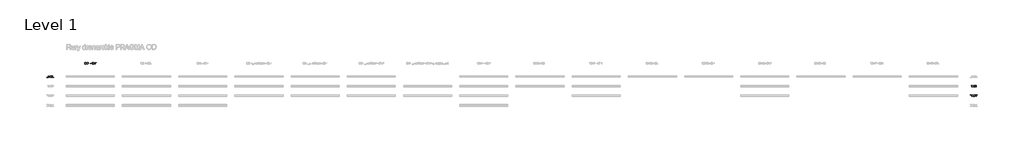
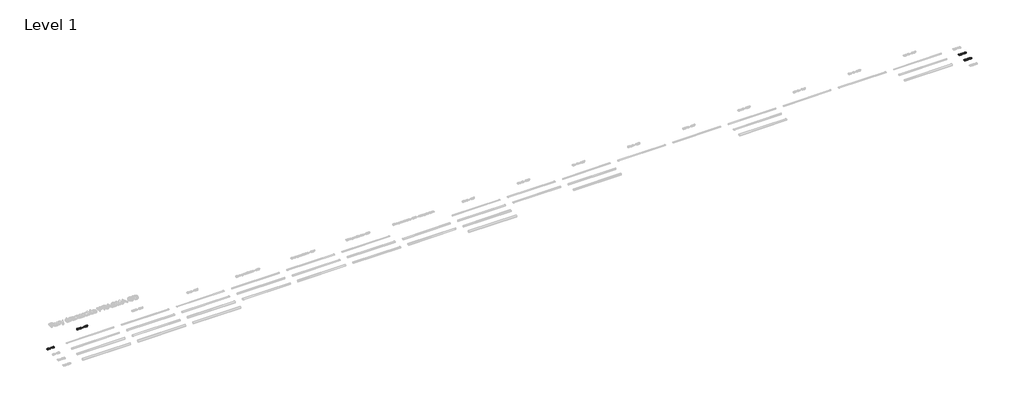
# One storey, part 3 of 9: 4 proxies.
"""IFC4 building model written with IfcOpenShell, lengths in millimetres."""

import ifcopenshell
import ifcopenshell.guid

model = None  # the IFC model being written
_history = None  # IfcOwnerHistory: only IFC2X3 demands one
_inside = {}  # id of a spatial element -> (the spatial element, [elements in it])
_under = {}  # id of a project, library or spatial element -> (it, [spatial elements below it])
_declared = {}  # id of a project -> (the project, [libraries it declares])
_typed = {}  # id of a type object -> (the type object, [elements of that type])
_made_of = {}  # id of a material, layer set ... -> (it, [elements and type objects made of it])


def new_model(schema):
    """Start an empty IFC model of exactly this schema.

    Asked for "IFC4X3", IfcOpenShell would pick the latest addendum, in which some entities
    have other attributes; the version numbers below select the first issue.
    IFC2X3 requires an IfcOwnerHistory on every rooted entity: one is made here for all.
    """
    global model, _history
    if schema == "IFC4X3":
        model = ifcopenshell.file(schema_version=(4, 3, 0, 0))
    else:
        model = ifcopenshell.file(schema=schema)
    _inside.clear()
    _under.clear()
    _declared.clear()
    _typed.clear()
    _made_of.clear()
    _history = None
    if model.schema == "IFC2X3":
        org = make("IfcOrganization", Name="unknown")
        user = make(
            "IfcPersonAndOrganization",
            ThePerson=make("IfcPerson", FamilyName="unknown"),
            TheOrganization=org,
        )
        app = make(
            "IfcApplication",
            ApplicationDeveloper=org,
            Version="unknown",
            ApplicationFullName="unknown",
            ApplicationIdentifier="unknown",
        )
        _history = make(
            "IfcOwnerHistory",
            OwningUser=user,
            OwningApplication=app,
            ChangeAction="ADDED",
            CreationDate=0,
        )
    return model


def make(cls, **values):
    """One entity of the class cls with the attributes given. An attribute that is None is left unset."""
    return model.create_entity(
        cls, **{name: value for name, value in values.items() if value is not None}
    )


def rooted(cls, **values):
    """An entity with a GlobalId (a new one), such as an element, a storey or a relation."""
    return make(cls, GlobalId=ifcopenshell.guid.new(), OwnerHistory=_history, **values)


def si_unit(unit_type, name, prefix=None):
    """IfcSIUnit, for example si_unit("LENGTHUNIT", "METRE", prefix="MILLI")."""
    return make("IfcSIUnit", UnitType=unit_type, Prefix=prefix, Name=name)


def assignment(units):
    """IfcUnitAssignment: the units of a project."""
    return None if units is None else make("IfcUnitAssignment", Units=units)


def point(xyz):
    """IfcCartesianPoint."""
    return None if xyz is None else make("IfcCartesianPoint", Coordinates=xyz)


def direction(xyz):
    """IfcDirection."""
    return None if xyz is None else make("IfcDirection", DirectionRatios=xyz)


def frame(location, z_axis=None, x_axis=None):
    """IfcAxis2Placement3D, a coordinate frame: its origin and axes. An axis left out is left unset."""
    return make(
        "IfcAxis2Placement3D",
        Location=point(location),
        Axis=direction(z_axis),
        RefDirection=direction(x_axis),
    )


def origin():
    """The frame at (0, 0, 0) with its axes left unset."""
    return frame((0.0, 0.0, 0.0))


def origin_with_axes():
    """The frame at (0, 0, 0) with the z axis (0, 0, 1) and the x axis (1, 0, 0) written out."""
    return frame((0.0, 0.0, 0.0), z_axis=(0.0, 0.0, 1.0), x_axis=(1.0, 0.0, 0.0))


def place(relative_to, where):
    """IfcLocalPlacement: puts the frame where relative to a parent placement (None: the world)."""
    return make(
        "IfcLocalPlacement", PlacementRelTo=relative_to, RelativePlacement=where
    )


def context(
    kind, dimensions, precision=None, world=None, true_north=None, identifier=None
):
    """IfcGeometricRepresentationContext, for example the 3D "Model" context."""
    return make(
        "IfcGeometricRepresentationContext",
        ContextIdentifier=identifier,
        ContextType=kind,
        CoordinateSpaceDimension=dimensions,
        Precision=precision,
        WorldCoordinateSystem=world,
        TrueNorth=true_north,
    )


def project(units=None, contexts=None):
    """IfcProject with its units and contexts."""
    return rooted(
        "IfcProject",
        Name="project",
        RepresentationContexts=contexts,
        UnitsInContext=assignment(units),
    )


def spatial(cls, under=None, at=None, **own):
    """A site, building, storey or space (cls), placed at a placement, below another one or the project."""
    s = rooted(cls, ObjectPlacement=at, **own)
    if under is not None:
        _under.setdefault(under.id(), (under, []))[1].append(s)
    return s


def polyline(points):
    """IfcPolyline through the points."""
    return make("IfcPolyline", Points=[point(p) for p in points])


def outline(outer, holes=None, kind="AREA"):
    """IfcArbitraryClosedProfileDef: a profile drawn as a closed curve; with holes, ...WithVoids."""
    if holes is None:
        return make("IfcArbitraryClosedProfileDef", ProfileType=kind, OuterCurve=outer)
    return make(
        "IfcArbitraryProfileDefWithVoids",
        ProfileType=kind,
        OuterCurve=outer,
        InnerCurves=holes,
    )


def extrude(swept, where, along, depth):
    """IfcExtrudedAreaSolid: the profile swept, set in the frame where, extruded along a direction by depth."""
    return make(
        "IfcExtrudedAreaSolid",
        SweptArea=swept,
        Position=where,
        ExtrudedDirection=direction(along),
        Depth=depth,
    )


def shape(context_of_items, identifier, shape_type, items):
    """IfcShapeRepresentation: the items that make up one representation, for example the "Body"."""
    return make(
        "IfcShapeRepresentation",
        ContextOfItems=context_of_items,
        RepresentationIdentifier=identifier,
        RepresentationType=shape_type,
        Items=items,
    )


def made_of(thing, what):
    """Note that an element or type object is made of a material, layer set ...; save() writes the relation."""
    if what is not None:
        _made_of.setdefault(what.id(), (what, []))[1].append(thing)
    return thing


def element(
    cls,
    number,
    at=None,
    inside=None,
    cuts=None,
    type_object=None,
    material=None,
    context=None,
    identifier="Body",
    shape_type=None,
    held_by="IfcProductDefinitionShape",
    body=None,
    shapes=None,
    **own,
):
    """One element of the class cls, such as IfcWall. Its Tag is "e" and its number.

    at: its placement. inside: the storey or other place that contains it. cuts: it is an
    opening in that element (IfcRelVoidsElement). A single representation is given by context,
    identifier, shape_type and body (its items); several are given by shapes. held_by: the class
    of the entity that holds the representations. save() writes the other relations.
    """
    e = rooted(cls, Tag="e%d" % number, ObjectPlacement=at, **own)
    if body is not None:
        shapes = [shape(context, identifier, shape_type, body)]
    if shapes is not None:
        e.Representation = make(held_by, Representations=shapes)
    if inside is not None:
        _inside.setdefault(inside.id(), (inside, []))[1].append(e)
    if cuts is not None:
        rooted(
            "IfcRelVoidsElement", RelatingBuildingElement=cuts, RelatedOpeningElement=e
        )
    if type_object is not None:
        _typed.setdefault(type_object.id(), (type_object, []))[1].append(e)
    return made_of(e, material)


def aggregate(whole, parts):
    """IfcRelAggregates: a whole, such as a stair, and the parts it consists of."""
    return rooted("IfcRelAggregates", RelatingObject=whole, RelatedObjects=parts)


def save(model, path):
    """Write the relations noted so far, then the file.

    IfcRelAggregates (storeys below a building ...), IfcRelContainedInSpatialStructure (elements
    in a storey), IfcRelDefinesByType, IfcRelAssociatesMaterial and IfcRelDeclares: one each for
    every whole, place, type object, material and project.
    """
    for whole, parts in _under.values():
        aggregate(whole, parts)
    for where, things in _inside.values():
        rooted(
            "IfcRelContainedInSpatialStructure",
            RelatedElements=things,
            RelatingStructure=where,
        )
    for kind, things in _typed.values():
        rooted("IfcRelDefinesByType", RelatedObjects=things, RelatingType=kind)
    for what, things in _made_of.values():
        rooted("IfcRelAssociatesMaterial", RelatedObjects=things, RelatingMaterial=what)
    for by, libraries in _declared.values():
        rooted("IfcRelDeclares", RelatingContext=by, RelatedDefinitions=libraries)
    model.write(path)


model = new_model("IFC4")

# Units and contexts
model_context = context("Model", 3, world=origin())
ifc_project = project(units=[si_unit("LENGTHUNIT", "METRE", prefix="MILLI")], contexts=[model_context])

# Site, building, storey
site = spatial("IfcSite", under=ifc_project)
building = spatial("IfcBuilding", under=site)
storey = spatial("IfcBuildingStorey", under=building, Name="Level 1", Elevation=0.0)

# Proxies
placement = place(None, origin())
element("IfcBuildingElementProxy", 1, Name="200mm Arial", ObjectType="200mm Arial", at=placement, inside=storey, context=model_context, shape_type="SweptSolid", body=[
    extrude(outline(polyline([(-19491.3116028, 486.050427), (-19491.3116028, 686.9630473), (-19422.0026349, 686.9630473), (-19386.1464031, 684.0690423), (-19370.1312736, 678.4894987), (-19356.6177416, 669.697119), (-19342.724065, 654.393228), (-19332.8280393, 635.3614662), (-19326.9051392, 612.9697154), (-19324.9308391, 587.5858577), (-19330.2773908, 547.0452618), (-19344.0116519, 517.7863805), (-19362.3567008, 499.563959), (-19386.3671323, 489.4839923), (-19418.6671715, 486.050427), (-19491.3116028, 486.050427)]), holes=[polyline([(-19466.1975253, 511.1645046), (-19421.7573803, 511.1645046), (-19389.4328156, 514.7942736), (-19370.7934612, 525.0459185), (-19362.0685265, 535.9168315), (-19355.5140957, 549.9883178), (-19351.4122114, 567.3216911), (-19350.0449167, 587.9782652), (-19352.7243239, 615.3486856), (-19360.7625455, 635.5576699), (-19372.6390025, 649.4390838), (-19386.8331162, 657.8267933), (-19422.4440933, 661.8489698), (-19466.1975253, 661.8489698), (-19466.1975253, 511.1645046)])]), origin_with_axes(), (0.0, 0.0, 1.0), 50.0),
    extrude(outline(polyline([(-19290.3989825, 486.050427), (-19290.3989825, 686.9630473), (-19263.5190714, 686.9630473), (-19158.5500754, 527.7927708), (-19158.5500754, 686.9630473), (-19133.4359979, 686.9630473), (-19133.4359979, 486.050427), (-19160.315909, 486.050427), (-19265.284905, 645.2697546), (-19265.284905, 486.050427), (-19290.3989825, 486.050427)])), origin_with_axes(), (0.0, 0.0, 1.0), 50.0),
    extrude(outline(polyline([(-18926.2448582, 486.050427), (-18951.3589358, 486.050427), (-18951.3589358, 642.6210042), (-18975.1486381, 625.6739069), (-19001.5870908, 612.9942408), (-19001.5870908, 636.7348923), (-18964.7743658, 660.230289), (-18951.3037535, 673.8051347), (-18942.431666, 686.9630473), (-18926.2448582, 686.9630473), (-18926.2448582, 486.050427)])), origin_with_axes(), (0.0, 0.0, 1.0), 50.0),
    extrude(outline(polyline([(-18772.4211333, 486.050427), (-18797.5352108, 486.050427), (-18797.5352108, 642.6210042), (-18821.3249132, 625.6739069), (-18847.7633659, 612.9942408), (-18847.7633659, 636.7348923), (-18810.9506409, 660.230289), (-18797.4800285, 673.8051347), (-18788.6079411, 686.9630473), (-18772.4211333, 686.9630473), (-18772.4211333, 486.050427)])), origin_with_axes(), (0.0, 0.0, 1.0), 50.0),
    extrude(outline(polyline([(-18712.7751992, 584.8880564), (-18710.9296578, 617.0470742), (-18705.3930338, 642.6945806), (-18696.2205094, 662.2229832), (-18683.4672669, 676.0246894), (-18667.0413358, 684.2284578), (-18646.8507456, 686.9630473), (-18631.3751764, 685.3443666), (-18617.5182879, 680.4883242), (-18605.930005, 672.5849927), (-18597.2602527, 661.8244443), (-18585.4880288, 632.0995791), (-18580.9262921, 584.8880564), (-18582.7534393, 552.9129797), (-18588.2348811, 527.3267869), (-18597.3522232, 507.7799902), (-18610.0870716, 493.9231017), (-18626.5497909, 485.664151), (-18646.8507456, 482.9111674), (-18672.9458418, 487.6936333), (-18692.7624186, 502.0410311), (-18701.5180101, 517.1701782), (-18707.772004, 536.0210647), (-18712.7751992, 584.8880564)]), holes=[polyline([(-18687.6611216, 584.9371073), (-18684.7180657, 545.4327124), (-18675.8888978, 522.5688464), (-18662.7432478, 511.6611453), (-18646.8507456, 508.0252449), (-18630.9582434, 511.673408), (-18617.8125935, 522.6178974), (-18608.9834256, 545.4940261), (-18606.0403696, 584.9371073), (-18608.8853237, 623.5524541), (-18617.420186, 646.5941297), (-18630.5413105, 658.0352598), (-18647.1450512, 661.8489698), (-18662.8658751, 658.4889809), (-18675.4964903, 648.4090143), (-18684.6199638, 623.9325988), (-18687.6611216, 584.9371073)])]), origin_with_axes(), (0.0, 0.0, 1.0), 50.0),
])
element("IfcBuildingElementProxy", 2, Name="200mm Arial", ObjectType="200mm Arial", at=placement, inside=storey, context=model_context, shape_type="SweptSolid", body=[
    extrude(outline(polyline([(-14742.1398156, 2231.0128426), (-14717.0257381, 2231.0128426), (-14708.9323342, 2205.8742396), (-14700.8021421, 2196.983758), (-14689.1648083, 2189.9817374), (-14674.9400379, 2185.4383947), (-14659.0475357, 2183.9239472), (-14632.8052867, 2188.5102094), (-14615.8581894, 2201.1162991), (-14610.2909086, 2217.9652945), (-14614.4602379, 2233.6370675), (-14620.8123336, 2239.8358791), (-14631.5299624, 2245.0414093), (-14668.0974328, 2254.6308667), (-14707.4608062, 2267.0162272), (-14719.9626627, 2275.4652503), (-14728.8224874, 2285.7046325), (-14734.1015941, 2297.5136446), (-14735.8612963, 2310.6715573), (-14733.6846611, 2325.3807057), (-14727.1547557, 2339.0965728), (-14716.4432583, 2350.7216438), (-14701.7218471, 2359.1584042), (-14684.0512486, 2364.2903581), (-14664.4921892, 2366.0010093), (-14643.3021863, 2364.2106503), (-14624.7609337, 2358.8395732), (-14609.5306191, 2349.9981425), (-14598.2734301, 2337.796723), (-14591.1487821, 2322.9956041), (-14588.3160907, 2306.3550752), (-14613.4301683, 2306.3550752), (-14618.0409559, 2321.3401351), (-14627.6549387, 2332.1558658), (-14642.6767869, 2338.7041653), (-14663.5111705, 2340.8869318), (-14684.8360635, 2338.7286908), (-14699.4655042, 2332.2539676), (-14707.9267901, 2322.725824), (-14710.7472187, 2311.4073212), (-14708.7483932, 2301.7565502), (-14702.7519167, 2293.9942401), (-14688.5761971, 2287.0535332), (-14661.745337, 2279.9656734), (-14617.305192, 2267.3595837), (-14602.988451, 2258.2483729), (-14593.0004548, 2247.0034466), (-14587.132737, 2233.7474321), (-14585.176831, 2218.6029566), (-14587.4270426, 2203.121256), (-14594.1776772, 2188.5592603), (-14605.1528234, 2176.026747), (-14620.0765696, 2166.6334934), (-14638.0230796, 2160.7657756), (-14658.066517, 2158.8098696), (-14682.6716911, 2160.9190598), (-14702.923595, 2167.2466301), (-14719.0552205, 2177.8171061), (-14731.2995595, 2192.6550132), (-14739.1599715, 2210.7302819), (-14742.1398156, 2231.0128426)])), origin_with_axes(), (0.0, 0.0, 1.0), 50.0),
    extrude(outline(polyline([(-14547.5057147, 2161.9491293), (-14547.5057147, 2362.8617496), (-14520.6258036, 2362.8617496), (-14415.6568077, 2203.6914731), (-14415.6568077, 2362.8617496), (-14390.5427301, 2362.8617496), (-14390.5427301, 2161.9491293), (-14417.4226412, 2161.9491293), (-14522.3916372, 2321.1684569), (-14522.3916372, 2161.9491293), (-14547.5057147, 2161.9491293)])), origin_with_axes(), (0.0, 0.0, 1.0), 50.0),
    extrude(outline(polyline([(-14240.9373854, 2272.6080335), (-14254.3834723, 2279.2299094), (-14263.8196455, 2288.2062301), (-14269.3930577, 2299.3530545), (-14271.2508618, 2312.4864418), (-14267.2041599, 2332.1190776), (-14255.064054, 2348.3426736), (-14236.1917077, 2359.2319806), (-14211.9482842, 2362.8617496), (-14187.5577079, 2359.1461415), (-14168.4401069, 2347.999317), (-14156.0792719, 2331.5182037), (-14151.9589935, 2311.7997287), (-14153.7922721, 2299.0894058), (-14159.292108, 2288.1326537), (-14168.5198147, 2279.2115153), (-14181.5367059, 2272.6080335), (-14166.0795308, 2264.6433883), (-14154.8284731, 2252.914084), (-14147.9674739, 2237.9842064), (-14145.6804741, 2220.4178411), (-14150.2176854, 2196.4074096), (-14163.8293192, 2176.5663073), (-14184.8476439, 2163.2489791), (-14211.6049277, 2158.8098696), (-14238.3622115, 2163.2673732), (-14259.3805361, 2176.6398837), (-14272.9921699, 2196.6710583), (-14277.5293812, 2221.1045542), (-14275.150411, 2239.3515011), (-14268.0135003, 2254.3610865), (-14256.4865311, 2265.6182756), (-14240.9373854, 2272.6080335)]), holes=[polyline([(-14246.1367843, 2311.7506778), (-14243.9110982, 2300.7877943), (-14237.23404, 2292.0322028), (-14226.3018134, 2286.2932437), (-14211.3106221, 2284.3802573), (-14196.6689187, 2286.280981), (-14185.9022389, 2291.9831519), (-14179.280363, 2300.4444378), (-14177.0730711, 2310.6225063), (-14179.3539394, 2321.186851), (-14186.1965445, 2329.9240483), (-14197.1103771, 2335.7917662), (-14211.6049277, 2337.7476721), (-14226.1914488, 2335.8346857), (-14237.0868872, 2330.0957266), (-14243.87431, 2321.6834916), (-14246.1367843, 2311.7506778)]), polyline([(-14252.4153037, 2221.987471), (-14248.2214489, 2203.0783364), (-14242.4150448, 2194.9665384), (-14233.3835418, 2188.9271423), (-14211.4087239, 2183.9239472), (-14194.3144739, 2186.5543035), (-14181.487655, 2194.4453722), (-14173.4678275, 2206.3954057), (-14170.7945517, 2221.202656), (-14173.5536666, 2236.2612924), (-14181.8310115, 2248.4749746), (-14194.952136, 2256.5683785), (-14212.2425898, 2259.2661798), (-14229.0977165, 2256.6051667), (-14241.7957767, 2248.6221274), (-14249.7604219, 2236.6414371), (-14252.4153037, 2221.987471)])]), origin_with_axes(), (0.0, 0.0, 1.0), 50.0),
    extrude(outline(polyline([(-14051.5026834, 2221.5950635), (-14051.5026834, 2246.709141), (-13973.0211911, 2246.709141), (-13973.0211911, 2221.5950635), (-14051.5026834, 2221.5950635)])), origin_with_axes(), (0.0, 0.0, 1.0), 50.0),
    extrude(outline(polyline([(-13778.3870901, 2161.9491293), (-13803.5011677, 2161.9491293), (-13803.5011677, 2318.5197065), (-13827.29087, 2301.5726092), (-13853.7293228, 2288.8929431), (-13853.7293228, 2312.6335946), (-13816.9165978, 2336.1289913), (-13803.4459854, 2349.7038369), (-13794.5738979, 2362.8617496), (-13778.3870901, 2362.8617496), (-13778.3870901, 2161.9491293)])), origin_with_axes(), (0.0, 0.0, 1.0), 50.0),
    extrude(outline(polyline([(-13590.0315086, 2187.0632069), (-13590.0315086, 2161.9491293), (-13721.8804157, 2161.9491293), (-13719.1826144, 2179.2641086), (-13703.9277743, 2205.9232905), (-13672.4861265, 2235.0350191), (-13629.125102, 2276.8754646), (-13620.9949099, 2291.2964388), (-13618.2848458, 2305.3250056), (-13620.8416257, 2317.9004385), (-13628.5119653, 2328.3544185), (-13640.3025833, 2335.3993587), (-13655.2201982, 2337.7476721), (-13670.8858398, 2335.454541), (-13683.0566025, 2328.5751477), (-13690.9108831, 2317.6490524), (-13693.6270785, 2303.2158155), (-13718.741156, 2306.3550752), (-13712.652709, 2330.6475496), (-13699.4886649, 2348.3917245), (-13679.9357369, 2359.2442434), (-13654.6806379, 2362.8617496), (-13629.2415979, 2358.8395732), (-13609.7254581, 2346.7730437), (-13597.3094408, 2328.746826), (-13593.1707683, 2306.8455845), (-13597.6344032, 2283.0313567), (-13612.4723103, 2258.4077885), (-13648.4511695, 2223.9985592), (-13677.3421688, 2199.8409748), (-13688.6729343, 2187.0632069), (-13590.0315086, 2187.0632069)])), origin_with_axes(), (0.0, 0.0, 1.0), 50.0),
    extrude(outline(polyline([(-13564.9174311, 2260.7867587), (-13563.0718897, 2292.9457765), (-13557.5352657, 2318.5932829), (-13548.3627413, 2338.1216855), (-13535.6094988, 2351.9233917), (-13519.1835677, 2360.1271601), (-13498.9929775, 2362.8617496), (-13483.5174083, 2361.2430689), (-13469.6605198, 2356.3870265), (-13458.0722369, 2348.483695), (-13449.4024846, 2337.7231466), (-13437.6302608, 2307.9982814), (-13433.068524, 2260.7867587), (-13434.8956713, 2228.811682), (-13440.377113, 2203.2254892), (-13449.4944551, 2183.6786925), (-13462.2293035, 2169.821804), (-13478.6920228, 2161.5628532), (-13498.9929775, 2158.8098696), (-13525.0880737, 2163.5923356), (-13544.9046505, 2177.9397334), (-13553.660242, 2193.0688805), (-13559.9142359, 2211.919767), (-13564.9174311, 2260.7867587)]), holes=[polyline([(-13539.8033535, 2260.8358096), (-13536.8602976, 2221.3314147), (-13528.0311297, 2198.4675487), (-13514.8854797, 2187.5598476), (-13498.9929775, 2183.9239472), (-13483.1004754, 2187.5721103), (-13469.9548254, 2198.5165997), (-13461.1256575, 2221.3927284), (-13458.1826015, 2260.8358096), (-13461.0275556, 2299.4511564), (-13469.5624179, 2322.492832), (-13482.6835424, 2333.9339621), (-13499.2872831, 2337.7476721), (-13515.0081071, 2334.3876832), (-13527.6387222, 2324.3077165), (-13536.7621957, 2299.8313011), (-13539.8033535, 2260.8358096)])]), origin_with_axes(), (0.0, 0.0, 1.0), 50.0),
    extrude(outline(polyline([(-13404.8151868, 2328.378944), (-13402.0499405, 2342.8612318), (-13393.7542015, 2355.0136004), (-13381.5834388, 2363.2541571), (-13367.1931214, 2366.0010093), (-13352.6372571, 2363.2541571), (-13340.4603631, 2355.0136004), (-13332.2198064, 2342.8612318), (-13329.4729542, 2328.378944), (-13332.2382005, 2313.9150502), (-13340.5339395, 2301.719762), (-13352.7292276, 2293.4240231), (-13367.1931214, 2290.6587767), (-13381.5834388, 2293.405629), (-13393.7542015, 2301.6461856), (-13402.0499405, 2313.8230797), (-13404.8151868, 2328.378944)]), holes=[polyline([(-13389.1188883, 2328.329893), (-13387.5063389, 2319.8808699), (-13382.6686907, 2312.7807474), (-13375.5501741, 2307.9614932), (-13367.0950195, 2306.3550752), (-13358.7134414, 2307.9614932), (-13351.6194503, 2312.7807474), (-13346.781802, 2319.8808699), (-13345.1692526, 2328.329893), (-13346.781802, 2336.7789162), (-13351.6194503, 2343.8790387), (-13358.7134414, 2348.6982928), (-13367.0950195, 2350.3047109), (-13375.5501741, 2348.6982928), (-13382.6686907, 2343.8790387), (-13387.5063389, 2336.7789162), (-13389.1188883, 2328.329893)])]), origin_with_axes(), (0.0, 0.0, 1.0), 50.0),
])
element("IfcBuildingElementProxy", 3, Name="200mm Arial", ObjectType="200mm Arial", at=placement, inside=storey, context=model_context, shape_type="SweptSolid", body=[
    extrude(outline(polyline([(95539.3076926, -713.949573), (95539.3076926, -513.0369527), (95608.6166605, -513.0369527), (95644.4728923, -515.9309577), (95660.4880218, -521.5105013), (95674.0015538, -530.302881), (95687.8952305, -545.606772), (95697.7912562, -564.6385338), (95703.7141563, -587.0302846), (95705.6884563, -612.4141423), (95700.3419047, -652.9547382), (95686.6076435, -682.2136195), (95668.2625947, -700.436041), (95644.2521631, -710.5160077), (95611.9521239, -713.949573), (95539.3076926, -713.949573)]), holes=[polyline([(95564.4217702, -688.8354954), (95608.8619152, -688.8354954), (95641.1864798, -685.2057264), (95659.8258342, -674.9540815), (95668.5507689, -664.0831685), (95675.1051998, -650.0116822), (95679.207084, -632.6783089), (95680.5743788, -612.0217348), (95677.8949716, -584.6513144), (95669.85675, -564.4423301), (95657.9802929, -550.5609162), (95643.7861793, -542.1732067), (95608.1752021, -538.1510302), (95564.4217702, -538.1510302), (95564.4217702, -688.8354954)])]), origin_with_axes(), (0.0, 0.0, 1.0), 50.0),
    extrude(outline(polyline([(95740.2203129, -713.949573), (95740.2203129, -513.0369527), (95767.100224, -513.0369527), (95872.06922, -672.2072292), (95872.06922, -513.0369527), (95897.1832975, -513.0369527), (95897.1832975, -713.949573), (95870.3033864, -713.949573), (95765.3343905, -554.7302454), (95765.3343905, -713.949573), (95740.2203129, -713.949573)])), origin_with_axes(), (0.0, 0.0, 1.0), 50.0),
    extrude(outline(polyline([(96104.3744372, -713.949573), (96079.2603597, -713.949573), (96079.2603597, -557.3789958), (96055.4706573, -574.3260931), (96029.0322046, -587.0057592), (96029.0322046, -563.2651077), (96065.8449296, -539.769711), (96079.315542, -526.1948653), (96088.1876294, -513.0369527), (96104.3744372, -513.0369527), (96104.3744372, -713.949573)])), origin_with_axes(), (0.0, 0.0, 1.0), 50.0),
    extrude(outline(polyline([(96292.7300188, -566.4043674), (96267.6159412, -569.5436271), (96258.1000603, -548.5988789), (96246.7079812, -540.7629924), (96232.9369318, -538.1510302), (96210.2754009, -544.2333458), (96200.8392277, -553.8411973), (96193.1320999, -567.066555), (96187.9265697, -585.7733545), (96185.9951892, -611.8255311), (96196.0690245, -600.0717013), (96208.1416853, -591.7882251), (96221.5387213, -586.8770005), (96235.5856822, -585.2399256), (96258.7867733, -589.7158232), (96278.2599936, -603.143516), (96291.4669572, -623.6590686), (96295.8692784, -649.3985455), (96293.7968765, -667.3818437), (96287.5796708, -684.0530295), (96277.7326961, -698.1919608), (96264.7709871, -708.5784958), (96249.2831551, -714.9612484), (96231.8578113, -717.0888326), (96203.3653508, -711.4479754), (96180.673163, -694.5254036), (96172.0141406, -681.4165418), (96165.8291245, -664.6533856), (96160.8811117, -620.1641897), (96166.3748161, -570.144501), (96173.2419467, -551.0667539), (96182.8559295, -535.9437382), (96193.276187, -525.9220195), (96205.3580449, -518.763649), (96234.5065616, -513.0369527), (96256.5426932, -516.5808825), (96274.1887662, -527.2126722), (96286.5496012, -544.0984558), (96292.7300188, -566.4043674)]), holes=[polyline([(96185.9951892, -649.0061381), (96191.8077247, -670.7602267), (96207.2587685, -686.554627), (96229.895774, -691.9747551), (96246.4688579, -689.1665892), (96259.4980119, -680.7420915), (96267.9409036, -667.4983397), (96270.7552009, -650.2324114), (96267.9776918, -633.6593275), (96259.6451647, -621.022581), (96246.3952815, -613.0211476), (96228.8657044, -610.3540031), (96212.317146, -613.0211476), (96198.4786516, -621.022581), (96189.1160548, -633.3527592), (96185.9951892, -649.0061381)])]), origin_with_axes(), (0.0, 0.0, 1.0), 50.0),
    extrude(outline(polyline([(96317.8440963, -615.1119436), (96319.6896376, -582.9529258), (96325.2262617, -557.3054194), (96334.3987861, -537.7770168), (96347.1520286, -523.9753106), (96363.5779597, -515.7715422), (96383.7685498, -513.0369527), (96399.2441191, -514.6556334), (96413.1010076, -519.5116758), (96424.6892904, -527.4150073), (96433.3590428, -538.1755557), (96445.1312666, -567.9004209), (96449.6930034, -615.1119436), (96447.8658561, -647.0870203), (96442.3844144, -672.6732131), (96433.2670723, -692.2200098), (96420.5322239, -706.0768983), (96404.0695046, -714.335849), (96383.7685498, -717.0888326), (96357.6734536, -712.3063667), (96337.8568768, -697.9589689), (96329.1012853, -682.8298218), (96322.8472914, -663.9789353), (96317.8440963, -615.1119436)]), holes=[polyline([(96342.9581738, -615.0628927), (96345.9012298, -654.5672876), (96354.7303977, -677.4311536), (96367.8760476, -688.3388547), (96383.7685498, -691.9747551), (96399.661052, -688.326592), (96412.806702, -677.3821026), (96421.6358699, -654.5059739), (96424.5789258, -615.0628927), (96421.7339717, -576.4475459), (96413.1991094, -553.4058703), (96400.0779849, -541.9647402), (96383.4742442, -538.1510302), (96367.7534203, -541.5110191), (96355.1228051, -551.5909857), (96345.9993317, -576.0674012), (96342.9581738, -615.0628927)])]), origin_with_axes(), (0.0, 0.0, 1.0), 50.0),
])
element("IfcBuildingElementProxy", 4, Name="200mm Arial", ObjectType="200mm Arial", at=placement, inside=storey, context=model_context, shape_type="SweptSolid", body=[
    extrude(outline(polyline([(95539.3076926, -1913.949573), (95539.3076926, -1713.0369527), (95608.6166605, -1713.0369527), (95644.4728923, -1715.9309577), (95660.4880218, -1721.5105013), (95674.0015538, -1730.302881), (95687.8952305, -1745.606772), (95697.7912562, -1764.6385338), (95703.7141563, -1787.0302846), (95705.6884563, -1812.4141423), (95700.3419047, -1852.9547382), (95686.6076435, -1882.2136195), (95668.2625947, -1900.436041), (95644.2521631, -1910.5160077), (95611.9521239, -1913.949573), (95539.3076926, -1913.949573)]), holes=[polyline([(95564.4217702, -1888.8354954), (95608.8619152, -1888.8354954), (95641.1864798, -1885.2057264), (95659.8258342, -1874.9540815), (95668.5507689, -1864.0831685), (95675.1051998, -1850.0116822), (95679.207084, -1832.6783089), (95680.5743788, -1812.0217348), (95677.8949716, -1784.6513144), (95669.85675, -1764.4423301), (95657.9802929, -1750.5609162), (95643.7861793, -1742.1732067), (95608.1752021, -1738.1510302), (95564.4217702, -1738.1510302), (95564.4217702, -1888.8354954)])]), origin_with_axes(), (0.0, 0.0, 1.0), 50.0),
    extrude(outline(polyline([(95740.2203129, -1913.949573), (95740.2203129, -1713.0369527), (95767.100224, -1713.0369527), (95872.06922, -1872.2072292), (95872.06922, -1713.0369527), (95897.1832975, -1713.0369527), (95897.1832975, -1913.949573), (95870.3033864, -1913.949573), (95765.3343905, -1754.7302454), (95765.3343905, -1913.949573), (95740.2203129, -1913.949573)])), origin_with_axes(), (0.0, 0.0, 1.0), 50.0),
    extrude(outline(polyline([(96138.9062938, -1888.8354954), (96138.9062938, -1913.949573), (96007.0573868, -1913.949573), (96009.7551881, -1896.6345937), (96025.0100281, -1869.9754118), (96056.451676, -1840.8636832), (96099.8127005, -1799.0232377), (96107.9428926, -1784.6022635), (96110.6529566, -1770.5736967), (96108.0961767, -1757.9982638), (96100.4258371, -1747.5442838), (96088.6352192, -1740.4993436), (96073.7176043, -1738.1510302), (96058.0519627, -1740.4441613), (96045.8812, -1747.3235546), (96038.0269194, -1758.2496499), (96035.310724, -1772.6828868), (96010.1966465, -1769.5436271), (96016.2850935, -1745.2511527), (96029.4491375, -1727.5069778), (96049.0020656, -1716.6544589), (96074.2571645, -1713.0369527), (96099.6962045, -1717.0591291), (96119.2123444, -1729.1256586), (96131.6283617, -1747.1518763), (96135.7670341, -1769.0531178), (96131.3033993, -1792.8673456), (96116.4654921, -1817.4909138), (96080.486633, -1851.9001431), (96051.5956336, -1876.0577275), (96040.2648682, -1888.8354954), (96138.9062938, -1888.8354954)])), origin_with_axes(), (0.0, 0.0, 1.0), 50.0),
    extrude(outline(polyline([(96164.0203714, -1815.1119436), (96165.8659127, -1782.9529258), (96171.4025367, -1757.3054194), (96180.5750612, -1737.7770168), (96193.3283037, -1723.9753106), (96209.7542347, -1715.7715422), (96229.9448249, -1713.0369527), (96245.4203942, -1714.6556334), (96259.2772827, -1719.5116758), (96270.8655655, -1727.4150073), (96279.5353179, -1738.1755557), (96291.3075417, -1767.9004209), (96295.8692784, -1815.1119436), (96294.0421312, -1847.0870203), (96288.5606895, -1872.6732131), (96279.4433474, -1892.2200098), (96266.708499, -1906.0768983), (96250.2457797, -1914.335849), (96229.9448249, -1917.0888326), (96203.8497287, -1912.3063667), (96184.0331519, -1897.9589689), (96175.2775604, -1882.8298218), (96169.0235665, -1863.9789353), (96164.0203714, -1815.1119436)]), holes=[polyline([(96189.1344489, -1815.0628927), (96192.0775049, -1854.5672876), (96200.9066728, -1877.4311536), (96214.0523227, -1888.3388547), (96229.9448249, -1891.9747551), (96245.8373271, -1888.326592), (96258.9829771, -1877.3821026), (96267.8121449, -1854.5059739), (96270.7552009, -1815.0628927), (96267.9102468, -1776.4475459), (96259.3753845, -1753.4058703), (96246.25426, -1741.9647402), (96229.6505193, -1738.1510302), (96213.9296954, -1741.5110191), (96201.2990802, -1751.5909857), (96192.1756067, -1776.0674012), (96189.1344489, -1815.0628927)])]), origin_with_axes(), (0.0, 0.0, 1.0), 50.0),
    extrude(outline(polyline([(96317.8440963, -1815.1119436), (96319.6896376, -1782.9529258), (96325.2262617, -1757.3054194), (96334.3987861, -1737.7770168), (96347.1520286, -1723.9753106), (96363.5779597, -1715.7715422), (96383.7685498, -1713.0369527), (96399.2441191, -1714.6556334), (96413.1010076, -1719.5116758), (96424.6892904, -1727.4150073), (96433.3590428, -1738.1755557), (96445.1312666, -1767.9004209), (96449.6930034, -1815.1119436), (96447.8658561, -1847.0870203), (96442.3844144, -1872.6732131), (96433.2670723, -1892.2200098), (96420.5322239, -1906.0768983), (96404.0695046, -1914.335849), (96383.7685498, -1917.0888326), (96357.6734536, -1912.3063667), (96337.8568768, -1897.9589689), (96329.1012853, -1882.8298218), (96322.8472914, -1863.9789353), (96317.8440963, -1815.1119436)]), holes=[polyline([(96342.9581738, -1815.0628927), (96345.9012298, -1854.5672876), (96354.7303977, -1877.4311536), (96367.8760476, -1888.3388547), (96383.7685498, -1891.9747551), (96399.661052, -1888.326592), (96412.806702, -1877.3821026), (96421.6358699, -1854.5059739), (96424.5789258, -1815.0628927), (96421.7339717, -1776.4475459), (96413.1991094, -1753.4058703), (96400.0779849, -1741.9647402), (96383.4742442, -1738.1510302), (96367.7534203, -1741.5110191), (96355.1228051, -1751.5909857), (96345.9993317, -1776.0674012), (96342.9581738, -1815.0628927)])]), origin_with_axes(), (0.0, 0.0, 1.0), 50.0),
])

save(model, "model.ifc")
